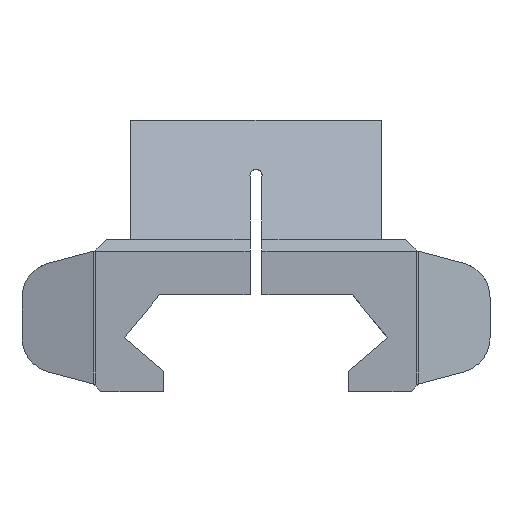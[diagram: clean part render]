
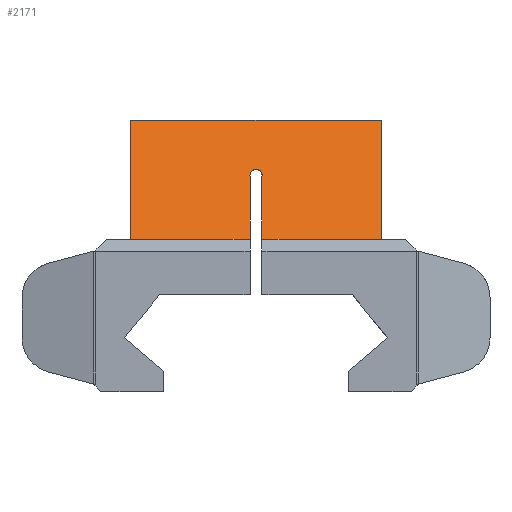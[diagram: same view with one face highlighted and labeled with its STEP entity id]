
A CAD part, front view. The second image highlights one B-rep face of the part: STEP entity #2171.
In plain terms, the highlighted planar face has unit normal (0, -0.908, 0.418).
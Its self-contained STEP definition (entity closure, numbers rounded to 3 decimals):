
#2010=CARTESIAN_POINT('',(10.5,273.385,40.75));
#2011=VERTEX_POINT('',#2010);
#2018=CARTESIAN_POINT('',(0.5,273.385,40.75));
#2019=VERTEX_POINT('',#2018);
#2020=CARTESIAN_POINT('',(0.5,273.385,40.75));
#2021=DIRECTION('',(1.,0.,-0.));
#2022=VECTOR('',#2021,10.);
#2023=LINE('',#2020,#2022);
#2024=EDGE_CURVE('',#2019,#2011,#2023,.T.);
#2105=CARTESIAN_POINT('',(-10.5,275.677,45.732));
#2106=DIRECTION('',(0.,0.908,-0.418));
#2107=DIRECTION('',(0.,0.418,0.908));
#2108=AXIS2_PLACEMENT_3D('',#2105,#2106,#2107);
#2109=PLANE('',#2108);
#2110=CARTESIAN_POINT('',(0.5,275.8,46.));
#2111=VERTEX_POINT('',#2110);
#2112=CARTESIAN_POINT('',(0.5,273.385,40.75));
#2113=DIRECTION('',(0.,0.418,0.908));
#2114=VECTOR('',#2113,5.779);
#2115=LINE('',#2112,#2114);
#2116=EDGE_CURVE('',#2019,#2111,#2115,.T.);
#2117=ORIENTED_EDGE('',*,*,#2116,.F.);
#2118=ORIENTED_EDGE('',*,*,#2024,.T.);
#2119=CARTESIAN_POINT('',(10.5,277.969,50.714));
#2120=VERTEX_POINT('',#2119);
#2121=CARTESIAN_POINT('',(10.5,273.385,40.75));
#2122=DIRECTION('',(0.,0.418,0.908));
#2123=VECTOR('',#2122,10.968);
#2124=LINE('',#2121,#2123);
#2125=EDGE_CURVE('',#2011,#2120,#2124,.T.);
#2126=ORIENTED_EDGE('',*,*,#2125,.T.);
#2127=CARTESIAN_POINT('',(-10.5,277.969,50.714));
#2128=VERTEX_POINT('',#2127);
#2129=CARTESIAN_POINT('',(-10.5,277.969,50.714));
#2130=DIRECTION('',(1.,-0.,-0.));
#2131=VECTOR('',#2130,21.);
#2132=LINE('',#2129,#2131);
#2133=EDGE_CURVE('',#2128,#2120,#2132,.T.);
#2134=ORIENTED_EDGE('',*,*,#2133,.F.);
#2135=CARTESIAN_POINT('',(-10.5,273.385,40.75));
#2136=VERTEX_POINT('',#2135);
#2137=CARTESIAN_POINT('',(-10.5,273.385,40.75));
#2138=DIRECTION('',(0.,0.418,0.908));
#2139=VECTOR('',#2138,10.968);
#2140=LINE('',#2137,#2139);
#2141=EDGE_CURVE('',#2136,#2128,#2140,.T.);
#2142=ORIENTED_EDGE('',*,*,#2141,.F.);
#2143=CARTESIAN_POINT('',(-0.5,273.385,40.75));
#2144=VERTEX_POINT('',#2143);
#2145=CARTESIAN_POINT('',(-10.5,273.385,40.75));
#2146=DIRECTION('',(1.,0.,-0.));
#2147=VECTOR('',#2146,10.);
#2148=LINE('',#2145,#2147);
#2149=EDGE_CURVE('',#2136,#2144,#2148,.T.);
#2150=ORIENTED_EDGE('',*,*,#2149,.T.);
#2151=CARTESIAN_POINT('',(-0.5,275.8,46.));
#2152=VERTEX_POINT('',#2151);
#2153=CARTESIAN_POINT('',(-0.5,273.385,40.75));
#2154=DIRECTION('',(0.,0.418,0.908));
#2155=VECTOR('',#2154,5.779);
#2156=LINE('',#2153,#2155);
#2157=EDGE_CURVE('',#2144,#2152,#2156,.T.);
#2158=ORIENTED_EDGE('',*,*,#2157,.T.);
#2159=CARTESIAN_POINT('',(-0.5,275.8,46.));
#2160=CARTESIAN_POINT('',(-0.561,275.952,46.33));
#2161=CARTESIAN_POINT('',(-0.28,276.037,46.516));
#2162=CARTESIAN_POINT('',(0.,276.123,46.701));
#2163=CARTESIAN_POINT('',(0.28,276.037,46.516));
#2164=CARTESIAN_POINT('',(0.561,275.952,46.33));
#2165=CARTESIAN_POINT('',(0.5,275.8,46.));
#2166=(BOUNDED_CURVE()
B_SPLINE_CURVE(2,(#2159,#2160,#2161,#2162,#2163,#2164,#2165),.UNSPECIFIED.,.F.,.F.)
B_SPLINE_CURVE_WITH_KNOTS((3,2,2,3),(79.611,146.537,213.463,280.389),.UNSPECIFIED.)
CURVE()
GEOMETRIC_REPRESENTATION_ITEM()
RATIONAL_B_SPLINE_CURVE((1.,0.834,1.,0.834,1.,0.834,1.))
REPRESENTATION_ITEM(''));
#2167=EDGE_CURVE('',#2152,#2111,#2166,.T.);
#2168=ORIENTED_EDGE('',*,*,#2167,.T.);
#2169=EDGE_LOOP('',(#2117,#2118,#2126,#2134,#2142,#2150,#2158,#2168));
#2170=FACE_BOUND('',#2169,.T.);
#2171=ADVANCED_FACE('',(#2170),#2109,.F.);
